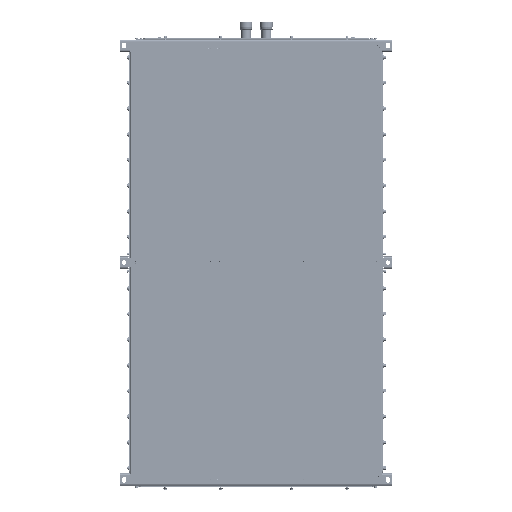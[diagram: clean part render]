
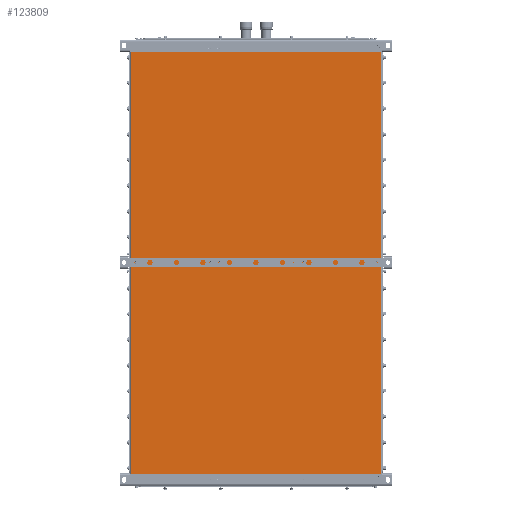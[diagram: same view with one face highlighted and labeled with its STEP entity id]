
A CAD part, front view. The second image highlights one B-rep face of the part: STEP entity #123809.
In plain terms, the highlighted planar face has unit normal (0, -1, 0).
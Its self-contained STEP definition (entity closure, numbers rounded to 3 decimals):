
#9473 = LINE ( 'NONE', #85900, #207742 ) ;
#12897 = CARTESIAN_POINT ( 'NONE',  ( -744.5, -18., -1208.657 ) ) ;
#14097 = DIRECTION ( 'NONE',  ( 0., 0., 1. ) ) ;
#26348 = ORIENTED_EDGE ( 'NONE', *, *, #48408, .F. ) ;
#31818 = VECTOR ( 'NONE', #84575, 1000. ) ;
#34846 = EDGE_LOOP ( 'NONE', ( #26348, #72216, #157060, #198017 ) ) ;
#38654 = DIRECTION ( 'NONE',  ( 1., 0., 0. ) ) ;
#41096 = FACE_OUTER_BOUND ( 'NONE', #34846, .T. ) ;
#45439 = VERTEX_POINT ( 'NONE', #241928 ) ;
#48408 = EDGE_CURVE ( 'NONE', #64372, #142125, #103380, .T. ) ;
#62315 = CARTESIAN_POINT ( 'NONE',  ( -367.5, -18., -533. ) ) ;
#64372 = VERTEX_POINT ( 'NONE', #182020 ) ;
#66637 = CARTESIAN_POINT ( 'NONE',  ( 9.5, -18., -1170. ) ) ;
#72216 = ORIENTED_EDGE ( 'NONE', *, *, #223734, .F. ) ;
#75561 = DIRECTION ( 'NONE',  ( 0., 0., 1. ) ) ;
#78335 = EDGE_CURVE ( 'NONE', #210225, #142125, #174345, .T. ) ;
#84575 = DIRECTION ( 'NONE',  ( 1., 0., 0. ) ) ;
#85900 = CARTESIAN_POINT ( 'NONE',  ( -781.636, -18., -1170. ) ) ;
#95627 = CARTESIAN_POINT ( 'NONE',  ( 9.5, -18., -1208.657 ) ) ;
#95974 = EDGE_CURVE ( 'NONE', #45439, #210225, #9473, .T. ) ;
#99955 = PLANE ( 'NONE',  #138551 ) ;
#103380 = LINE ( 'NONE', #125887, #31818 ) ;
#123809 = ADVANCED_FACE ( 'NONE', ( #41096 ), #99955, .T. ) ;
#125887 = CARTESIAN_POINT ( 'NONE',  ( -781.636, -18., 104. ) ) ;
#138551 = AXIS2_PLACEMENT_3D ( 'NONE', #62315, #138657, #38654 ) ;
#138657 = DIRECTION ( 'NONE',  ( 0., -1., 0. ) ) ;
#142125 = VERTEX_POINT ( 'NONE', #150400 ) ;
#149249 = LINE ( 'NONE', #12897, #153034 ) ;
#150400 = CARTESIAN_POINT ( 'NONE',  ( 9.5, -18., 104. ) ) ;
#153034 = VECTOR ( 'NONE', #14097, 1000. ) ;
#157060 = ORIENTED_EDGE ( 'NONE', *, *, #95974, .T. ) ;
#174345 = LINE ( 'NONE', #95627, #192500 ) ;
#182020 = CARTESIAN_POINT ( 'NONE',  ( -744.5, -18., 104. ) ) ;
#192500 = VECTOR ( 'NONE', #75561, 1000. ) ;
#198017 = ORIENTED_EDGE ( 'NONE', *, *, #78335, .T. ) ;
#207742 = VECTOR ( 'NONE', #238217, 1000. ) ;
#210225 = VERTEX_POINT ( 'NONE', #66637 ) ;
#223734 = EDGE_CURVE ( 'NONE', #45439, #64372, #149249, .T. ) ;
#238217 = DIRECTION ( 'NONE',  ( 1., 0., 0. ) ) ;
#241928 = CARTESIAN_POINT ( 'NONE',  ( -744.5, -18., -1170. ) ) ;
